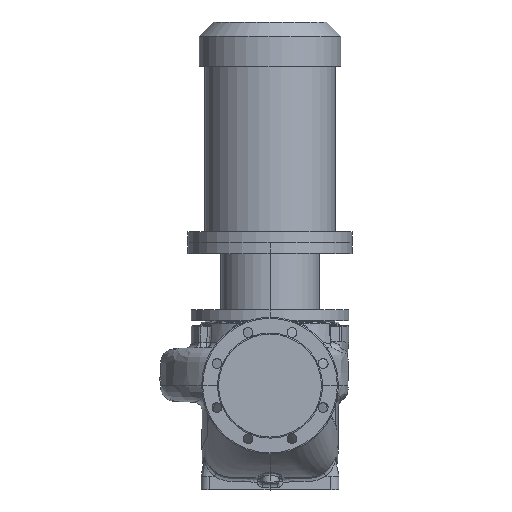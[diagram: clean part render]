
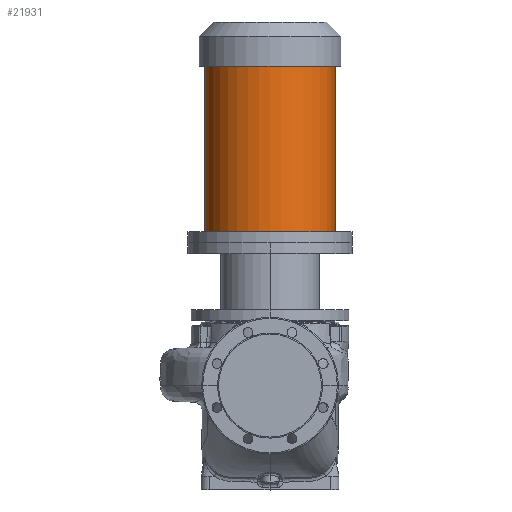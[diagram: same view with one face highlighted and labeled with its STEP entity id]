
A CAD part, top view. The second image highlights one B-rep face of the part: STEP entity #21931.
In plain terms, the highlighted cylindrical face has radius 119.5 mm (diameter 239 mm), a partial arc.
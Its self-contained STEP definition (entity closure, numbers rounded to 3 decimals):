
#2628 = ORIENTED_EDGE ( 'NONE', *, *, #12713, .F. ) ;
#2826 = FACE_OUTER_BOUND ( 'NONE', #32426, .T. ) ;
#3496 = DIRECTION ( 'NONE',  ( 0., -1., 0. ) ) ;
#4215 = DIRECTION ( 'NONE',  ( 0., -1., 0. ) ) ;
#4438 = VERTEX_POINT ( 'NONE', #29144 ) ;
#5606 = DIRECTION ( 'NONE',  ( 0., -1., 0. ) ) ;
#9178 = ORIENTED_EDGE ( 'NONE', *, *, #17102, .T. ) ;
#9758 = VECTOR ( 'NONE', #52088, 1000. ) ;
#10311 = CIRCLE ( 'NONE', #44878, 119.5 ) ;
#12003 = CARTESIAN_POINT ( 'NONE',  ( 119.5, 583.8, 0. ) ) ;
#12713 = EDGE_CURVE ( 'NONE', #62653, #42695, #19947, .T. ) ;
#15135 = CYLINDRICAL_SURFACE ( 'NONE', #38989, 119.5 ) ;
#17102 = EDGE_CURVE ( 'NONE', #62653, #39880, #48908, .T. ) ;
#17510 = CARTESIAN_POINT ( 'NONE',  ( 119.5, 281.8, 0. ) ) ;
#18303 = CARTESIAN_POINT ( 'NONE',  ( -119.5, 261.8, 0. ) ) ;
#19947 = LINE ( 'NONE', #34904, #52098 ) ;
#21931 = ADVANCED_FACE ( 'NONE', ( #2826 ), #15135, .T. ) ;
#22715 = LINE ( 'NONE', #18303, #9758 ) ;
#22978 = EDGE_CURVE ( 'NONE', #39880, #4438, #22715, .T. ) ;
#23231 = DIRECTION ( 'NONE',  ( -1., 0., 0. ) ) ;
#27720 = DIRECTION ( 'NONE',  ( -1., 0., 0. ) ) ;
#29144 = CARTESIAN_POINT ( 'NONE',  ( -119.5, 281.8, 0. ) ) ;
#30595 = EDGE_CURVE ( 'NONE', #42695, #4438, #10311, .T. ) ;
#31097 = CARTESIAN_POINT ( 'NONE',  ( -119.5, 583.8, 0. ) ) ;
#32426 = EDGE_LOOP ( 'NONE', ( #2628, #9178, #45825, #34291 ) ) ;
#33500 = CARTESIAN_POINT ( 'NONE',  ( 0., 583.8, 0. ) ) ;
#34291 = ORIENTED_EDGE ( 'NONE', *, *, #30595, .F. ) ;
#34904 = CARTESIAN_POINT ( 'NONE',  ( 119.5, 261.8, 0. ) ) ;
#37372 = DIRECTION ( 'NONE',  ( 0., -1., 0. ) ) ;
#38989 = AXIS2_PLACEMENT_3D ( 'NONE', #42860, #3496, #62662 ) ;
#39880 = VERTEX_POINT ( 'NONE', #31097 ) ;
#42695 = VERTEX_POINT ( 'NONE', #17510 ) ;
#42860 = CARTESIAN_POINT ( 'NONE',  ( 0., 261.8, 0. ) ) ;
#43291 = AXIS2_PLACEMENT_3D ( 'NONE', #33500, #4215, #23231 ) ;
#44878 = AXIS2_PLACEMENT_3D ( 'NONE', #47369, #37372, #27720 ) ;
#45825 = ORIENTED_EDGE ( 'NONE', *, *, #22978, .T. ) ;
#47369 = CARTESIAN_POINT ( 'NONE',  ( 0., 281.8, 0. ) ) ;
#48908 = CIRCLE ( 'NONE', #43291, 119.5 ) ;
#52088 = DIRECTION ( 'NONE',  ( 0., -1., 0. ) ) ;
#52098 = VECTOR ( 'NONE', #5606, 1000. ) ;
#62653 = VERTEX_POINT ( 'NONE', #12003 ) ;
#62662 = DIRECTION ( 'NONE',  ( -1., 0., 0. ) ) ;
